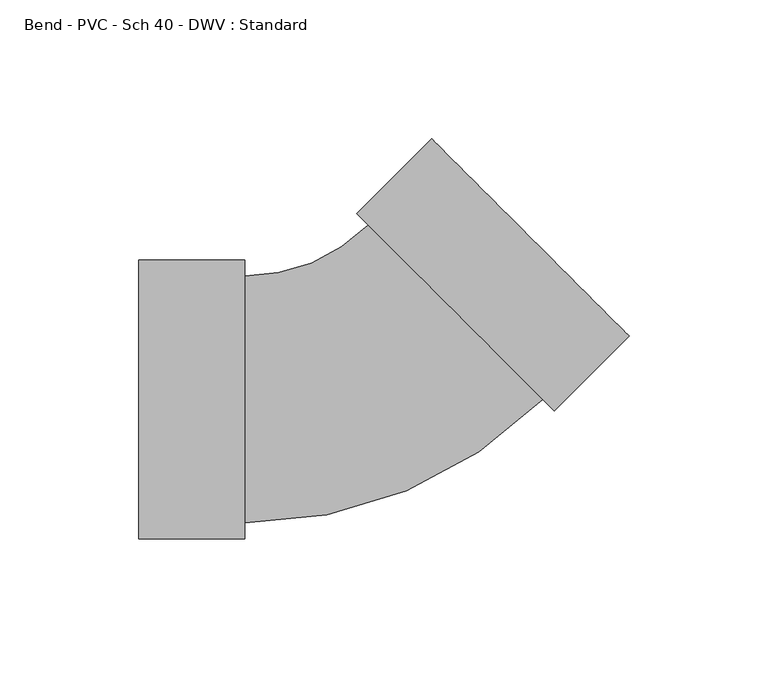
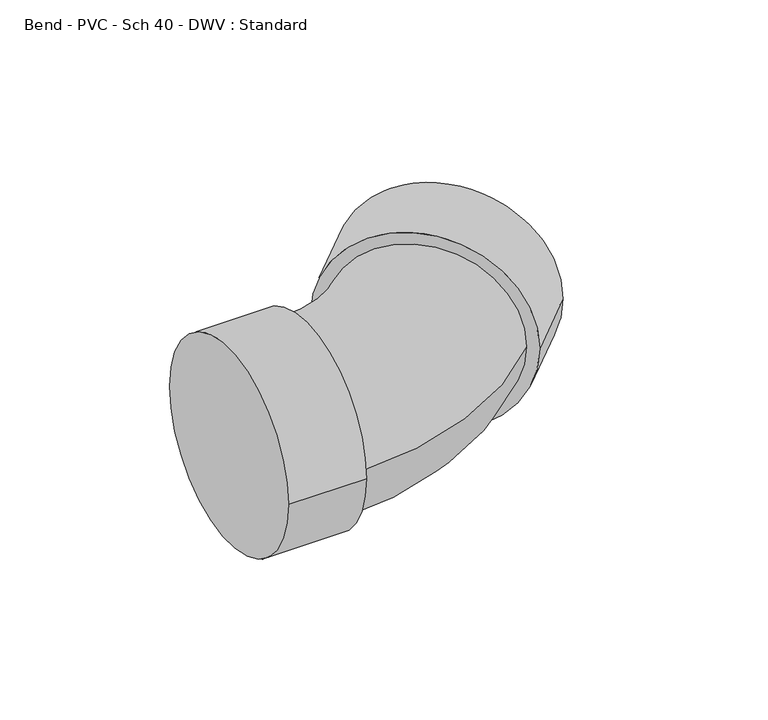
"""IFC4 building model written with IfcOpenShell, lengths in millimetres: pipe fitting geometry, Bend - PVC - Sch 40 - DWV : Standard."""

from ifc_helpers import new_model, si_unit, point, frame, origin, place, context, project, spatial, circle_curve, ellipse_curve, trimmed, source, transform, mapped, element, save
from ifc_brep_helpers import plane_surface, cylinder_surface, revolved_surface, advanced_brep


def bend_pvc_sch_40_dwv_standard_75fad665(model_context):
    return source(origin(), model_context, "Body", "AdvancedBrep", [
        advanced_brep(
        [(-82.55, -50.2666, 0.0), (-82.55, 50.2666, 0.0), (-44.45, -50.2666, 0.0), (-44.45, 50.2666, 0.0), (-44.45, -44.45, 0.0), (-44.45, 44.45, 0.0), (0.0011529, 62.8617928, 0.0), (62.8617928, -0.0011529, 0.0), (66.9746747, -4.1141856, 0.0), (-4.111729, 66.9748256, 0.0), (93.9159372, 22.8260886, 0.0), (22.8295335, 93.9150998, 0.0)],
        [
            (0, 1, circle_curve(frame((-82.55, 0.0, 0.0), z_axis=(-1.0, 0.0, 0.0), x_axis=(0.0, 1.0, 0.0)), 50.2666)),
            (1, 0, circle_curve(frame((-82.55, 0.0, 0.0), z_axis=(-1.0, 0.0, 0.0), x_axis=(0.0, 1.0, 0.0)), 50.2666)),
            (2, 3, circle_curve(frame((-44.45, 0.0, 0.0), z_axis=(1.0, 0.0, 0.0), x_axis=(0.0, 1.0, 0.0)), 50.2666)),
            (3, 2, circle_curve(frame((-44.45, 0.0, 0.0), z_axis=(1.0, 0.0, 0.0), x_axis=(0.0, 1.0, 0.0)), 50.2666)),
            (4, 5, circle_curve(frame((-44.45, 0.0, 0.0), z_axis=(-1.0, 0.0, 0.0), x_axis=(0.0, 1.0, 0.0)), 44.45)),
            (5, 4, circle_curve(frame((-44.45, 0.0, 0.0), z_axis=(-1.0, 0.0, 0.0), x_axis=(0.0, 1.0, 0.0)), 44.45)),
            (0, 2),
            (3, 1),
            (6, 5, circle_curve(frame((-44.45, 107.3145763, 0.0), z_axis=(0.0, 0.0, -1.0), x_axis=(0.0, -1.0, 0.0)), 62.8645763)),
            (4, 7, circle_curve(frame((-44.45, 107.3145763, 0.0), z_axis=(0.0, 0.0, 1.0), x_axis=(0.0, -1.0, 0.0)), 151.7645763)),
            (7, 6, circle_curve(frame((31.4314729, 31.43032, 0.0), z_axis=(-0.7071197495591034, -0.7070938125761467, 0.0), x_axis=(-0.7070938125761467, 0.7071197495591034, 0.0)), 44.45)),
            (6, 7, circle_curve(frame((31.4314729, 31.43032, 0.0), z_axis=(-0.7071197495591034, -0.7070938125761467, 0.0), x_axis=(-0.7070938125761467, 0.7071197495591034, 0.0)), 44.45)),
            (8, 9, circle_curve(frame((31.4314729, 31.43032, 0.0), z_axis=(-0.7071197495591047, -0.7070938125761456, 0.0), x_axis=(-0.7070938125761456, 0.7071197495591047, 0.0)), 50.2666)),
            (9, 8, circle_curve(frame((31.4314729, 31.43032, 0.0), z_axis=(-0.7071197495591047, -0.7070938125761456, 0.0), x_axis=(-0.7070938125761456, 0.7071197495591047, 0.0)), 50.2666)),
            (10, 11, circle_curve(frame((58.3727353, 58.3705942, 0.0), z_axis=(0.7071197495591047, 0.7070938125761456, 0.0), x_axis=(-0.7070938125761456, 0.7071197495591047, 0.0)), 50.2666)),
            (11, 10, circle_curve(frame((58.3727353, 58.3705942, 0.0), z_axis=(0.7071197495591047, 0.7070938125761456, 0.0), x_axis=(-0.7070938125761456, 0.7071197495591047, 0.0)), 50.2666)),
            (8, 10),
            (11, 9),
        ],
        [
            plane_surface(frame((-82.55, 0.0, 0.0), z_axis=(-1.0, 0.0, 0.0), x_axis=(0.0, 0.0, 1.0))),
            plane_surface(frame((-44.45, 0.0, 0.0), z_axis=(1.0, 0.0, 0.0), x_axis=(0.0, 0.0, 1.0))),
            cylinder_surface(frame((-82.55, 0.0, 0.0), z_axis=(-1.0, 0.0, 0.0), x_axis=(0.0, 1.0, 0.0)), 50.2666),
            revolved_surface(trimmed(ellipse_curve(frame((-44.45, 0.0, 0.0), z_axis=(-1.0, 0.0, 0.0), x_axis=(0.0, 1.0, 0.0)), 44.45, 44.45), [point((-44.45, -44.45, 0.0))], [point((-44.45, 44.45, 0.0))], True, "CARTESIAN"), (-44.45, 107.3145763, 0.0), (0.0, 0.0, 1.0)),
            revolved_surface(trimmed(ellipse_curve(frame((-44.45, 0.0, 0.0), z_axis=(-1.0, 0.0, 0.0), x_axis=(0.0, 1.0, 0.0)), 44.45, 44.45), [point((-44.45, 44.45, 0.0))], [point((-44.45, -44.45, 0.0))], True, "CARTESIAN"), (-44.45, 107.3145763, 0.0), (0.0, 0.0, 1.0)),
            plane_surface(frame((31.4314729, 31.43032, 0.0), z_axis=(-0.7071197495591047, -0.7070938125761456, 0.0), x_axis=(0.0, 0.0, 1.0))),
            plane_surface(frame((58.3727353, 58.3705942, 0.0), z_axis=(0.7071197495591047, 0.7070938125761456, 0.0), x_axis=(0.0, 0.0, 1.0))),
            cylinder_surface(frame((31.4314729, 31.43032, 0.0), z_axis=(-0.7071197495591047, -0.7070938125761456, 0.0), x_axis=(-0.7070938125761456, 0.7071197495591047, 0.0)), 50.2666),
        ],
        [
            (0, [[1, 2]]),
            (1, [[3, 4], [5, 6]]),
            (2, [[-1, 7, -4, 8]]),
            (2, [[-2, -8, -3, -7]]),
            (3, [[9, -5, 10, 11]]),
            (4, [[-9, 12, -10, -6]]),
            (5, [[13, 14], [-11, -12]]),
            (6, [[15, 16]]),
            (7, [[-13, 17, -16, 18]]),
            (7, [[-14, -18, -15, -17]]),
        ],
    ),
    ])


if __name__ == "__main__":
    model = new_model("IFC4")
    model_context = context("Model", 3, world=origin())
    ifc_project = project(units=[si_unit("LENGTHUNIT", "METRE", prefix="MILLI")], contexts=[model_context])
    site = spatial("IfcSite", under=ifc_project)
    building = spatial("IfcBuilding", under=site)
    placement = place(None, origin())
    bend_pvc_sch_40_dwv_standard_shape = bend_pvc_sch_40_dwv_standard_75fad665(model_context)
    element("IfcPipeFitting", 1, ObjectType="Bend - PVC - Sch 40 - DWV : Standard", at=placement, inside=building, context=model_context, shape_type="MappedRepresentation", body=[
        mapped(bend_pvc_sch_40_dwv_standard_shape, transform((0.0, 0.0, 0.0), x_axis=(1.0, 0.0, 0.0), y_axis=(0.0, 1.0, 0.0), z_axis=(0.0, 0.0, 1.0))),
    ])
    save(model, "model.ifc")
